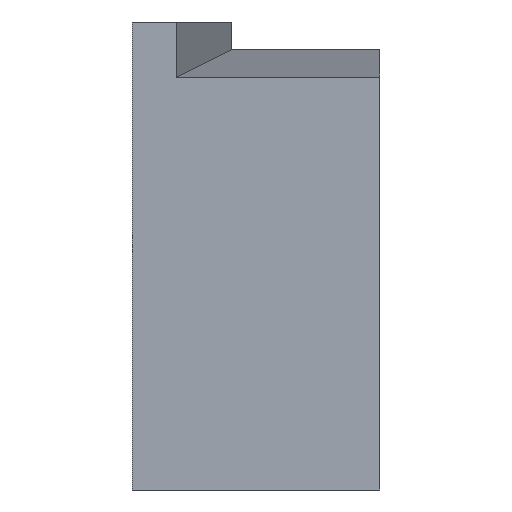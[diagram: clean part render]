
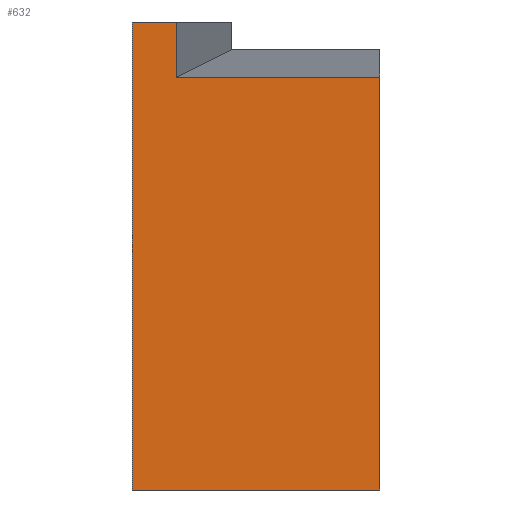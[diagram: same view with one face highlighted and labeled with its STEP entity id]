
A CAD part, left-side view. The second image highlights one B-rep face of the part: STEP entity #632.
In plain terms, the highlighted planar face has unit normal (-1, 0, 0).
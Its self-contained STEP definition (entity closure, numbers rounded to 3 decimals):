
#6 = CARTESIAN_POINT ( 'NONE',  ( -55., 3.7, 4.25 ) ) ;
#39 = CARTESIAN_POINT ( 'NONE',  ( -55., 0., 3.25 ) ) ;
#43 = EDGE_CURVE ( 'NONE', #606, #612, #546, .T. ) ;
#46 = VERTEX_POINT ( 'NONE', #361 ) ;
#58 = EDGE_CURVE ( 'NONE', #606, #372, #476, .T. ) ;
#61 = VECTOR ( 'NONE', #590, 1000. ) ;
#76 = EDGE_LOOP ( 'NONE', ( #178, #367, #523, #444, #426, #685 ) ) ;
#78 = CARTESIAN_POINT ( 'NONE',  ( -55., 4.5, -4.25 ) ) ;
#113 = CARTESIAN_POINT ( 'NONE',  ( -55., 4.5, -4.25 ) ) ;
#141 = CARTESIAN_POINT ( 'NONE',  ( -55., 4.5, -4.25 ) ) ;
#153 = VECTOR ( 'NONE', #167, 1000. ) ;
#154 = VECTOR ( 'NONE', #767, 1000. ) ;
#167 = DIRECTION ( 'NONE',  ( 0., 0., 1. ) ) ;
#178 = ORIENTED_EDGE ( 'NONE', *, *, #58, .F. ) ;
#212 = LINE ( 'NONE', #274, #61 ) ;
#226 = DIRECTION ( 'NONE',  ( 0., 0., 1. ) ) ;
#239 = CARTESIAN_POINT ( 'NONE',  ( -55., 0., -4.25 ) ) ;
#243 = PLANE ( 'NONE',  #686 ) ;
#274 = CARTESIAN_POINT ( 'NONE',  ( -55., 4.5, -4.25 ) ) ;
#303 = LINE ( 'NONE', #239, #153 ) ;
#315 = EDGE_CURVE ( 'NONE', #607, #46, #212, .T. ) ;
#318 = FACE_OUTER_BOUND ( 'NONE', #76, .T. ) ;
#324 = DIRECTION ( 'NONE',  ( 0., 0., -1. ) ) ;
#333 = CARTESIAN_POINT ( 'NONE',  ( -55., 4.5, 4.25 ) ) ;
#334 = EDGE_CURVE ( 'NONE', #697, #612, #635, .T. ) ;
#344 = VECTOR ( 'NONE', #226, 1000. ) ;
#361 = CARTESIAN_POINT ( 'NONE',  ( -55., 0., -4.25 ) ) ;
#367 = ORIENTED_EDGE ( 'NONE', *, *, #43, .T. ) ;
#372 = VERTEX_POINT ( 'NONE', #39 ) ;
#387 = DIRECTION ( 'NONE',  ( 1., 0., 0. ) ) ;
#416 = DIRECTION ( 'NONE',  ( 0., -1., 0. ) ) ;
#426 = ORIENTED_EDGE ( 'NONE', *, *, #315, .T. ) ;
#443 = EDGE_CURVE ( 'NONE', #607, #697, #657, .T. ) ;
#444 = ORIENTED_EDGE ( 'NONE', *, *, #443, .F. ) ;
#465 = VECTOR ( 'NONE', #416, 1000. ) ;
#467 = EDGE_CURVE ( 'NONE', #46, #372, #303, .T. ) ;
#476 = LINE ( 'NONE', #726, #465 ) ;
#508 = CARTESIAN_POINT ( 'NONE',  ( -55., 3.7, 3.25 ) ) ;
#523 = ORIENTED_EDGE ( 'NONE', *, *, #334, .F. ) ;
#530 = CARTESIAN_POINT ( 'NONE',  ( -55., 4.5, 4.25 ) ) ;
#546 = LINE ( 'NONE', #772, #344 ) ;
#590 = DIRECTION ( 'NONE',  ( 0., -1., 0. ) ) ;
#605 = DIRECTION ( 'NONE',  ( 0., 0., 1. ) ) ;
#606 = VERTEX_POINT ( 'NONE', #508 ) ;
#607 = VERTEX_POINT ( 'NONE', #141 ) ;
#612 = VERTEX_POINT ( 'NONE', #6 ) ;
#632 = ADVANCED_FACE ( 'NONE', ( #318 ), #243, .F. ) ;
#635 = LINE ( 'NONE', #530, #154 ) ;
#657 = LINE ( 'NONE', #113, #708 ) ;
#685 = ORIENTED_EDGE ( 'NONE', *, *, #467, .T. ) ;
#686 = AXIS2_PLACEMENT_3D ( 'NONE', #78, #387, #324 ) ;
#697 = VERTEX_POINT ( 'NONE', #333 ) ;
#708 = VECTOR ( 'NONE', #605, 1000. ) ;
#726 = CARTESIAN_POINT ( 'NONE',  ( -55., 17.708, 3.25 ) ) ;
#767 = DIRECTION ( 'NONE',  ( 0., -1., 0. ) ) ;
#772 = CARTESIAN_POINT ( 'NONE',  ( -55., 3.7, -11.537 ) ) ;
